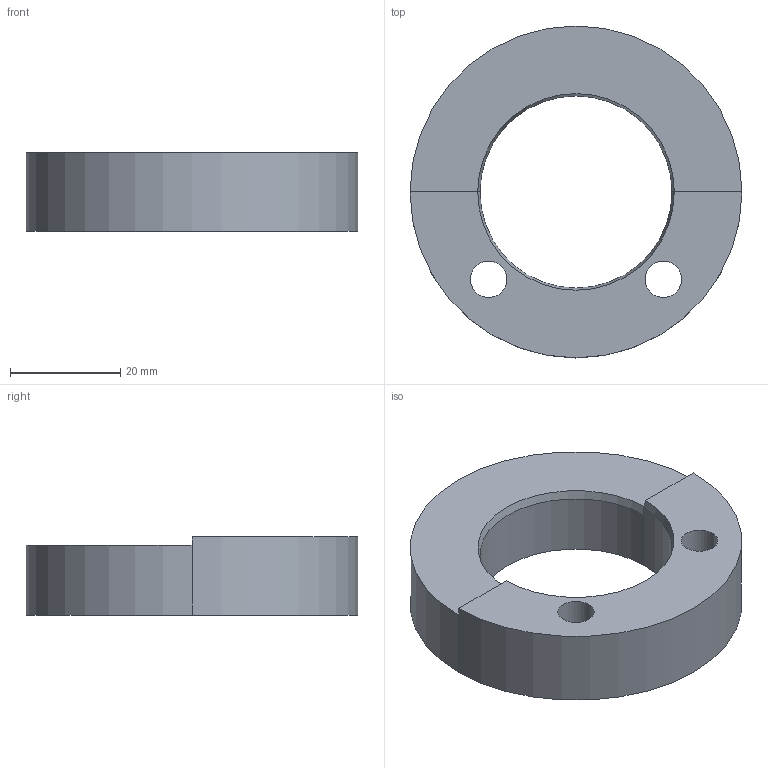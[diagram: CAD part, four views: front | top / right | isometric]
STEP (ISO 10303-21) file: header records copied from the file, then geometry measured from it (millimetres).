
FILE_DESCRIPTION (( 'STEP AP203' ), '1' );
FILE_NAME ('269-18-216.STEP', '2020-03-03T18:27:41', ( '' ), ( '' ), 'SwSTEP 2.0', 'SolidWorks 2017', '' );
FILE_SCHEMA (( 'CONFIG_CONTROL_DESIGN' ));
Length unit declared in the file: inch
Products named in the file (1): 269-18-216
Bounding box: 60.33 x 60.33 x 14.22 mm (x, y, z)
Volume: 24563.5 mm3; surface area: 8284.3 mm2
Topology: 1 solids, 1 shells, 15 faces, 38 edges, 24 vertices
Faces by surface type: cylinder 8, plane 5, cone 2
Entity records: 549 total; most frequent: DIRECTION 88, CARTESIAN_POINT 78, ORIENTED_EDGE 76, EDGE_CURVE 38, AXIS2_PLACEMENT_3D 34, VERTEX_POINT 24, VECTOR 20, EDGE_LOOP 20
